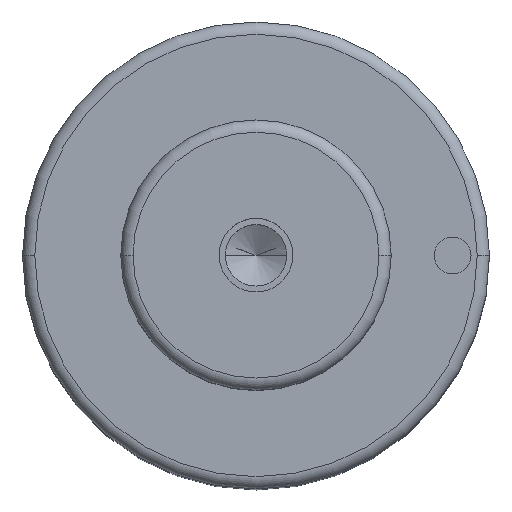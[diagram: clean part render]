
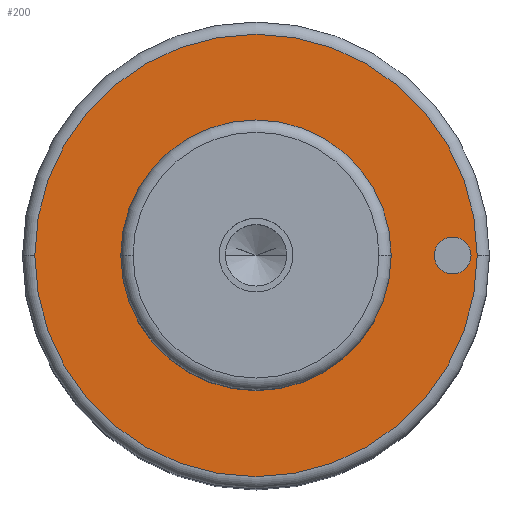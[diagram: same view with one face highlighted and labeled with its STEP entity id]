
A CAD part, top view. The second image highlights one B-rep face of the part: STEP entity #200.
In plain terms, the highlighted planar face has unit normal (0, 0, 1).
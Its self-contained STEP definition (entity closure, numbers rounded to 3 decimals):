
#99=PLANE('',#596);
#107=FACE_BOUND('',#265,.T.);
#108=FACE_BOUND('',#266,.T.);
#109=FACE_BOUND('',#267,.T.);
#200=ADVANCED_FACE('',(#107,#108,#109),#99,.T.);
#265=EDGE_LOOP('',(#359,#360));
#266=EDGE_LOOP('',(#361,#362));
#267=EDGE_LOOP('',(#363,#364));
#359=ORIENTED_EDGE('',*,*,#460,.F.);
#360=ORIENTED_EDGE('',*,*,#461,.F.);
#361=ORIENTED_EDGE('',*,*,#485,.F.);
#362=ORIENTED_EDGE('',*,*,#486,.F.);
#363=ORIENTED_EDGE('',*,*,#456,.T.);
#364=ORIENTED_EDGE('',*,*,#454,.T.);
#411=VERTEX_POINT('',#808);
#412=VERTEX_POINT('',#810);
#413=VERTEX_POINT('',#816);
#416=VERTEX_POINT('',#821);
#430=VERTEX_POINT('',#875);
#431=VERTEX_POINT('',#876);
#454=EDGE_CURVE('',#412,#411,#513,.T.);
#456=EDGE_CURVE('',#411,#412,#514,.T.);
#460=EDGE_CURVE('',#416,#413,#518,.T.);
#461=EDGE_CURVE('',#413,#416,#519,.T.);
#485=EDGE_CURVE('',#430,#431,#533,.T.);
#486=EDGE_CURVE('',#431,#430,#534,.T.);
#513=CIRCLE('',#558,11.);
#514=CIRCLE('',#560,11.);
#518=CIRCLE('',#565,18.);
#519=CIRCLE('',#567,18.);
#533=CIRCLE('',#594,1.5);
#534=CIRCLE('',#595,1.5);
#558=AXIS2_PLACEMENT_3D('',#809,#647,#648);
#560=AXIS2_PLACEMENT_3D('',#813,#652,#653);
#565=AXIS2_PLACEMENT_3D('',#822,#662,#663);
#567=AXIS2_PLACEMENT_3D('',#824,#666,#667);
#594=AXIS2_PLACEMENT_3D('',#874,#730,#731);
#595=AXIS2_PLACEMENT_3D('',#877,#732,#733);
#596=AXIS2_PLACEMENT_3D('',#878,#734,#735);
#647=DIRECTION('',(0.,0.,-1.));
#648=DIRECTION('',(0.,1.,0.));
#652=DIRECTION('',(0.,0.,-1.));
#653=DIRECTION('',(0.,-1.,0.));
#662=DIRECTION('',(0.,0.,-1.));
#663=DIRECTION('',(0.,1.,0.));
#666=DIRECTION('',(0.,0.,-1.));
#667=DIRECTION('',(0.,-1.,0.));
#730=DIRECTION('',(0.,0.,1.));
#731=DIRECTION('',(0.,1.,0.));
#732=DIRECTION('',(0.,0.,1.));
#733=DIRECTION('',(0.,-1.,0.));
#734=DIRECTION('',(0.,0.,1.));
#735=DIRECTION('',(0.,-1.,0.));
#808=CARTESIAN_POINT('',(-11.,0.,49.));
#809=CARTESIAN_POINT('',(0.,0.,49.));
#810=CARTESIAN_POINT('',(11.,0.,49.));
#813=CARTESIAN_POINT('',(0.,0.,49.));
#816=CARTESIAN_POINT('',(-18.,0.,49.));
#821=CARTESIAN_POINT('',(18.,0.,49.));
#822=CARTESIAN_POINT('',(0.,0.,49.));
#824=CARTESIAN_POINT('',(0.,0.,49.));
#874=CARTESIAN_POINT('',(16.,0.,49.));
#875=CARTESIAN_POINT('',(14.5,0.,49.));
#876=CARTESIAN_POINT('',(17.5,0.,49.));
#877=CARTESIAN_POINT('',(16.,0.,49.));
#878=CARTESIAN_POINT('',(0.,0.,49.));
